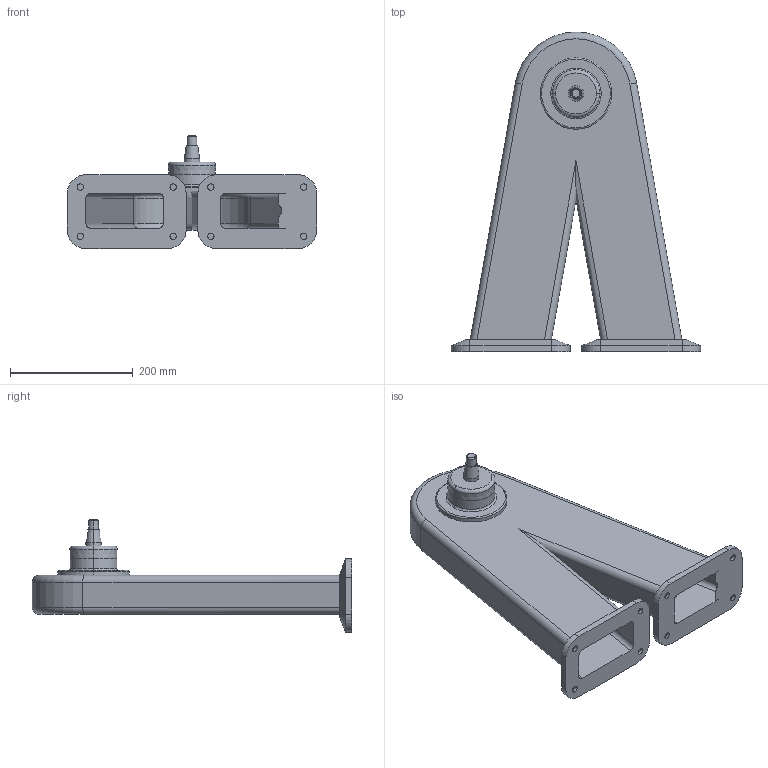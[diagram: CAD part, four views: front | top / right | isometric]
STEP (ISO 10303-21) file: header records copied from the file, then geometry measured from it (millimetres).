
FILE_DESCRIPTION (( 'STEP AP214' ), '1' );
FILE_NAME ('WP850_H420.STEP', '2014-09-08T12:54:53', ( '' ), ( '' ), 'SwSTEP 2.0', 'SolidWorks 2014', '' );
FILE_SCHEMA (( 'AUTOMOTIVE_DESIGN' ));
Length unit declared in the file: millimetre
Products named in the file (1): WP850_H420
Bounding box: 405.14 x 520 x 183.98 mm (x, y, z)
Volume: 1666276.8 mm3; surface area: 721963.8 mm2
Topology: 1 solids, 1 shells, 152 faces, 347 edges, 218 vertices
Faces by surface type: cylinder 76, plane 52, cone 14, torus 10
Entity records: 4347 total; most frequent: DIRECTION 791, CARTESIAN_POINT 778, ORIENTED_EDGE 694, EDGE_CURVE 347, AXIS2_PLACEMENT_3D 311, VERTEX_POINT 218, EDGE_LOOP 185, LINE 169
